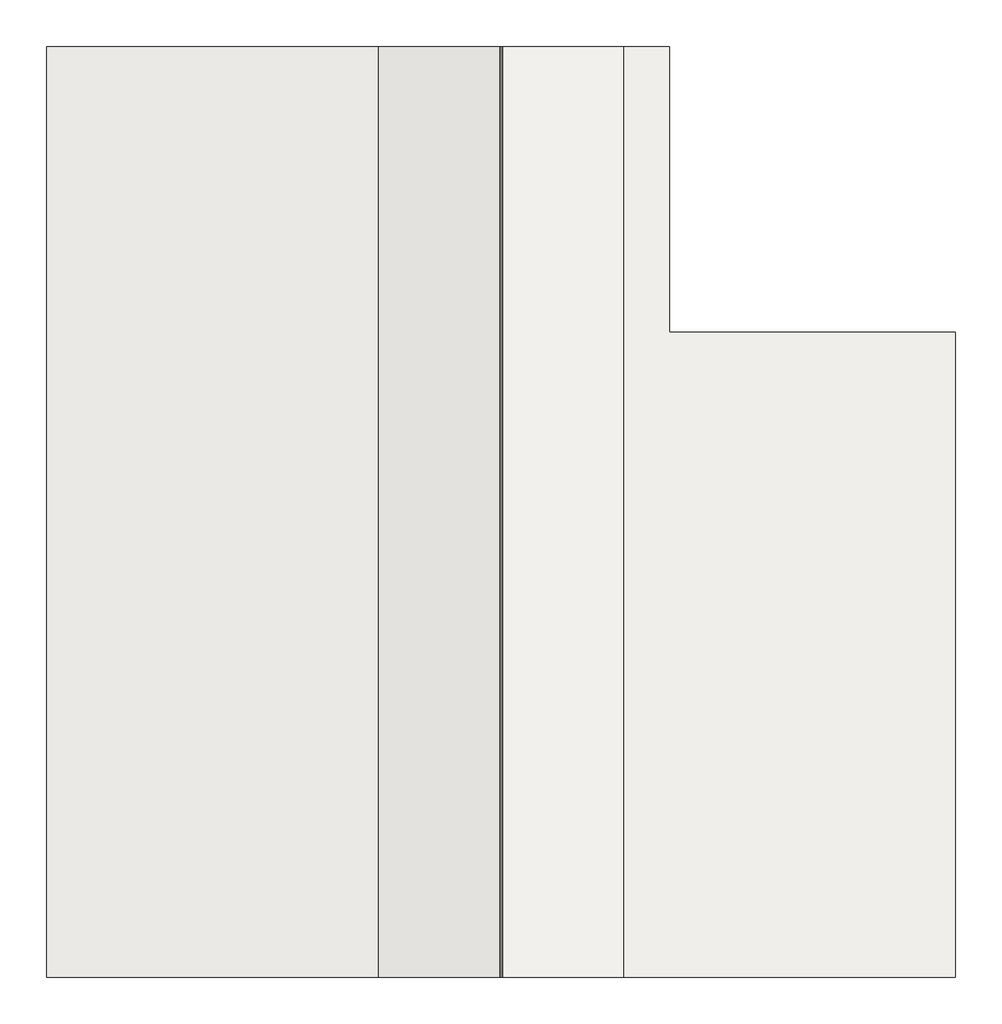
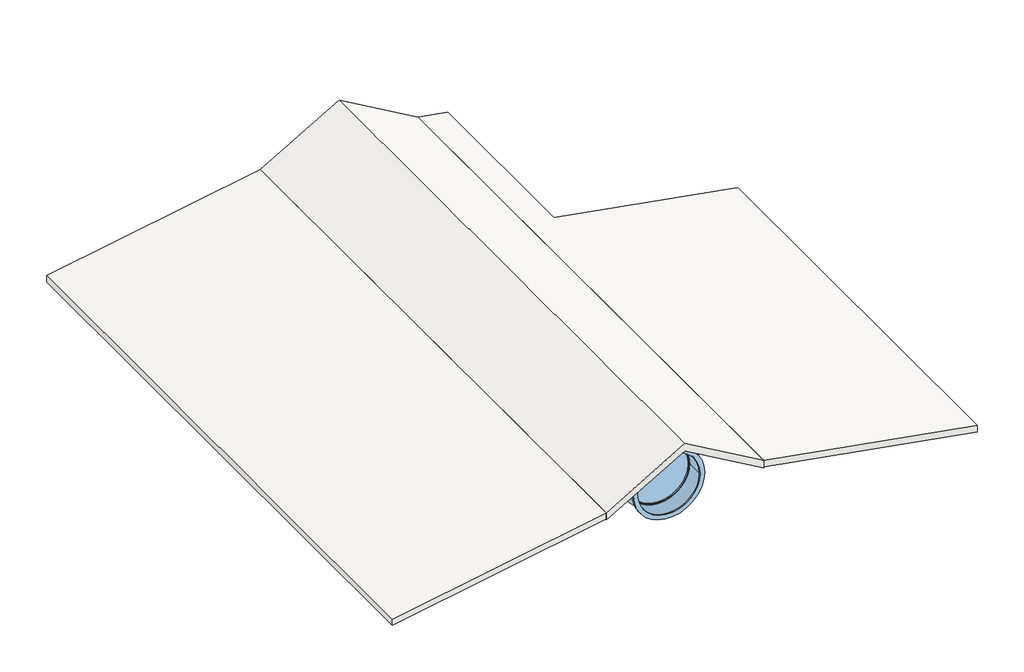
# One storey: 3 roofs, 1 window.
"""IFC4 building model written with IfcOpenShell, lengths in millimetres."""

from ifc_helpers import new_model, si_unit, frame, origin, place, context, project, spatial, polyline, outline, extrude, faceted_brep, transform, mapped, element, save
from components import window_33548029

model = new_model("IFC4")

# Units and contexts
model_context = context("Model", 3, world=origin())
ifc_project = project(units=[si_unit("LENGTHUNIT", "METRE", prefix="MILLI")], contexts=[model_context])

# Site, building, storey
site = spatial("IfcSite", under=ifc_project)
building = spatial("IfcBuilding", under=site)
storey = spatial("IfcBuildingStorey", under=building, Name="Кровля", Elevation=6300.0)

# Roofs
placement = place(None, origin())
element("IfcRoof", 1, ObjectType="Типовой - 125мм", at=placement, inside=storey, context=model_context, shape_type="SweptSolid", body=[
    extrude(outline(polyline([(6643.6975031, -8314.2998207), (5926.9283265, -12379.2998207), (5800.0, -12379.2998207), (6516.7691766, -8314.2998207), (6643.6975031, -8314.2998207)])), frame((0.0, -3200.5625848, 0.0), z_axis=(0.0, 1.0, 0.0), x_axis=(0.0, 0.0, 1.0)), (0.0, 0.0, 1.0), 11395.0),
])
element("IfcRoof", 2, ObjectType="Типовой - 125мм", at=placement, inside=storey, context=model_context, shape_type="Brep", body=[
    faceted_brep([(-5314.2998207, 8194.4374152, 6516.7691766), (-4749.2998207, 8194.4374152, 6417.1444325), (-4749.2998207, 4694.4374152, 6417.1444325), (-1249.2998207, 4694.4374152, 5800.0), (-1249.2998207, -3200.5625848, 5800.0), (-5314.2998207, -3200.5625848, 6516.7691766), (-4749.2998207, 8194.4374152, 6544.072759), (-5314.2998207, 8194.4374152, 6643.6975031), (-5314.2998207, -3200.5625848, 6643.6975031), (-1249.2998207, -3200.5625848, 5926.9283265), (-1249.2998207, 4694.4374152, 5926.9283265), (-4749.2998207, 4694.4374152, 6544.072759)], [[[0, 1, 2, 3, 4, 5]], [[6, 7, 8, 9, 10, 11]], [[3, 10, 9, 4]], [[7, 6, 1, 0]], [[9, 8, 5, 4]], [[8, 7, 0, 5]], [[6, 11, 2, 1]], [[11, 10, 3, 2]]]),
])
element("IfcRoof", 3, ObjectType="Типовой - 125мм", at=placement, inside=storey, context=model_context, shape_type="SweptSolid", body=[
    extrude(outline(polyline([(6644.3375673, -5314.2998207), (7510.3629711, -6814.2998207), (6644.3375673, -8314.2998207), (6500.0, -8314.2998207), (7366.0254038, -6814.2998207), (6500.0, -5314.2998207), (6644.3375673, -5314.2998207)])), frame((0.0, -3200.5625848, 0.0), z_axis=(0.0, 1.0, 0.0), x_axis=(0.0, 0.0, 1.0)), (0.0, 0.0, 1.0), 11395.0),
])

# Window
window_shape = window_33548029(model_context)
element("IfcWindow", 4, ObjectType="Круглый с подрезкой : Диаметр 1220мм", at=placement, inside=storey, context=model_context, shape_type="MappedRepresentation", body=[
    mapped(window_shape, transform((-6992.0998207, -2508.0625848, 5190.0), x_axis=(1.0, 0.0, 0.0), y_axis=(0.0, 1.0, 0.0), z_axis=(0.0, 0.0, 1.0))),
])

save(model, "model.ifc")
